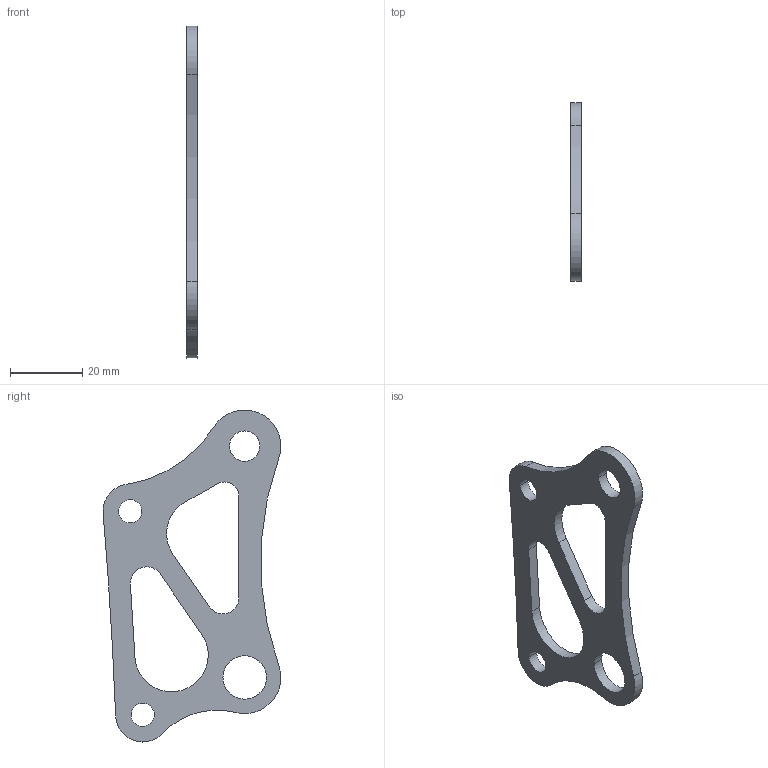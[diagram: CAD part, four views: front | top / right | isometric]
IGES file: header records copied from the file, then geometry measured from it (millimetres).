
Start section: START RECORD GO HERE.
Global section: file name: 20M_SU_08001 (rear rocker).igs; native system: IBM CATIA IGES - CATIA Version 5 Release 19 ; preprocessor: CATIA Version 5 Release 19 ; author: mik75; organization: LAPTOP-SUH344G9; date: 20200110.172139; units: millimetre
Bounding box: 3 x 49.11 x 91.73 mm (x, y, z)
Surface area: 5694.6 mm2 (no closed solid volume)
Topology: 0 solids, 0 shells, 28 faces, 156 edges, 163 vertices
Faces by surface type: revolution 21, plane 7
